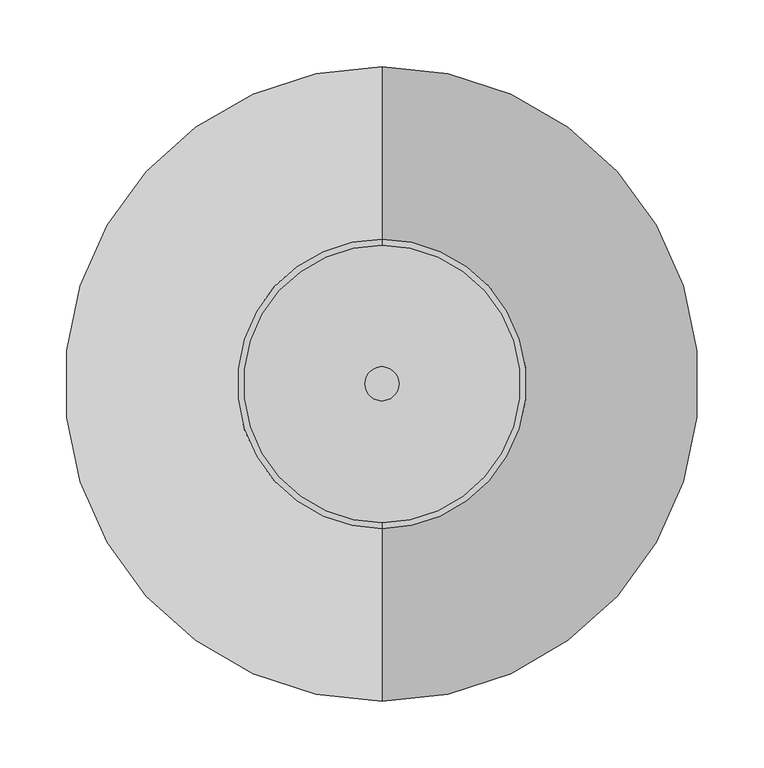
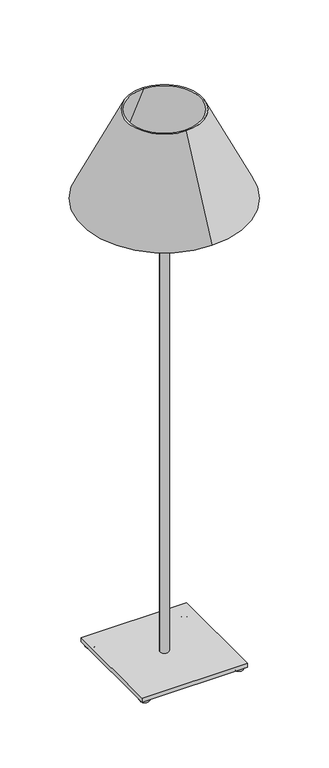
"""IFC4 building model written with IfcOpenShell, lengths in millimetres: light fixture geometry, 立燈 (1)-圓錐型 : 150 瓦白熾燈."""

import ifcopenshell
import ifcopenshell.guid

model = None  # the IFC model being written
_history = None  # IfcOwnerHistory: only IFC2X3 demands one
_inside = {}  # id of a spatial element -> (the spatial element, [elements in it])
_under = {}  # id of a project, library or spatial element -> (it, [spatial elements below it])
_declared = {}  # id of a project -> (the project, [libraries it declares])
_typed = {}  # id of a type object -> (the type object, [elements of that type])
_made_of = {}  # id of a material, layer set ... -> (it, [elements and type objects made of it])


def new_model(schema):
    """Start an empty IFC model of exactly this schema.

    Asked for "IFC4X3", IfcOpenShell would pick the latest addendum, in which some entities
    have other attributes; the version numbers below select the first issue.
    IFC2X3 requires an IfcOwnerHistory on every rooted entity: one is made here for all.
    """
    global model, _history
    if schema == "IFC4X3":
        model = ifcopenshell.file(schema_version=(4, 3, 0, 0))
    else:
        model = ifcopenshell.file(schema=schema)
    _inside.clear()
    _under.clear()
    _declared.clear()
    _typed.clear()
    _made_of.clear()
    _history = None
    if model.schema == "IFC2X3":
        org = make("IfcOrganization", Name="unknown")
        user = make(
            "IfcPersonAndOrganization",
            ThePerson=make("IfcPerson", FamilyName="unknown"),
            TheOrganization=org,
        )
        app = make(
            "IfcApplication",
            ApplicationDeveloper=org,
            Version="unknown",
            ApplicationFullName="unknown",
            ApplicationIdentifier="unknown",
        )
        _history = make(
            "IfcOwnerHistory",
            OwningUser=user,
            OwningApplication=app,
            ChangeAction="ADDED",
            CreationDate=0,
        )
    return model


def make(cls, **values):
    """One entity of the class cls with the attributes given. An attribute that is None is left unset."""
    return model.create_entity(
        cls, **{name: value for name, value in values.items() if value is not None}
    )


def rooted(cls, **values):
    """An entity with a GlobalId (a new one), such as an element, a storey or a relation."""
    return make(cls, GlobalId=ifcopenshell.guid.new(), OwnerHistory=_history, **values)


def si_unit(unit_type, name, prefix=None):
    """IfcSIUnit, for example si_unit("LENGTHUNIT", "METRE", prefix="MILLI")."""
    return make("IfcSIUnit", UnitType=unit_type, Prefix=prefix, Name=name)


def assignment(units):
    """IfcUnitAssignment: the units of a project."""
    return None if units is None else make("IfcUnitAssignment", Units=units)


def point(xyz):
    """IfcCartesianPoint."""
    return None if xyz is None else make("IfcCartesianPoint", Coordinates=xyz)


def direction(xyz):
    """IfcDirection."""
    return None if xyz is None else make("IfcDirection", DirectionRatios=xyz)


def frame(location, z_axis=None, x_axis=None):
    """IfcAxis2Placement3D, a coordinate frame: its origin and axes. An axis left out is left unset."""
    return make(
        "IfcAxis2Placement3D",
        Location=point(location),
        Axis=direction(z_axis),
        RefDirection=direction(x_axis),
    )


def frame_2d(location, x_axis=None):
    """IfcAxis2Placement2D, a coordinate frame in the plane: its origin and x axis."""
    return make(
        "IfcAxis2Placement2D", Location=point(location), RefDirection=direction(x_axis)
    )


def origin():
    """The frame at (0, 0, 0) with its axes left unset."""
    return frame((0.0, 0.0, 0.0))


def origin_2d():
    """The frame at (0, 0) in the plane with its x axis left unset."""
    return frame_2d((0.0, 0.0))


def place(relative_to, where):
    """IfcLocalPlacement: puts the frame where relative to a parent placement (None: the world)."""
    return make(
        "IfcLocalPlacement", PlacementRelTo=relative_to, RelativePlacement=where
    )


def context(
    kind, dimensions, precision=None, world=None, true_north=None, identifier=None
):
    """IfcGeometricRepresentationContext, for example the 3D "Model" context."""
    return make(
        "IfcGeometricRepresentationContext",
        ContextIdentifier=identifier,
        ContextType=kind,
        CoordinateSpaceDimension=dimensions,
        Precision=precision,
        WorldCoordinateSystem=world,
        TrueNorth=true_north,
    )


def project(units=None, contexts=None):
    """IfcProject with its units and contexts."""
    return rooted(
        "IfcProject",
        Name="project",
        RepresentationContexts=contexts,
        UnitsInContext=assignment(units),
    )


def spatial(cls, under=None, at=None, **own):
    """A site, building, storey or space (cls), placed at a placement, below another one or the project."""
    s = rooted(cls, ObjectPlacement=at, **own)
    if under is not None:
        _under.setdefault(under.id(), (under, []))[1].append(s)
    return s


def polyline(points):
    """IfcPolyline through the points."""
    return make("IfcPolyline", Points=[point(p) for p in points])


def circle_curve(where, radius):
    """IfcCircle in the frame where."""
    return make("IfcCircle", Position=where, Radius=radius)


def ellipse_curve(where, semi_axis1, semi_axis2):
    """IfcEllipse in the frame where."""
    return make(
        "IfcEllipse", Position=where, SemiAxis1=semi_axis1, SemiAxis2=semi_axis2
    )


def trimmed(basis, trim1, trim2, sense, master):
    """IfcTrimmedCurve: the piece of a basis curve between two trims."""
    return make(
        "IfcTrimmedCurve",
        BasisCurve=basis,
        Trim1=trim1,
        Trim2=trim2,
        SenseAgreement=sense,
        MasterRepresentation=master,
    )


def segment(curve, same_sense, transition):
    """IfcCompositeCurveSegment."""
    return make(
        "IfcCompositeCurveSegment",
        Transition=transition,
        SameSense=same_sense,
        ParentCurve=curve,
    )


def composite_curve(segments, self_intersect=None):
    """IfcCompositeCurve: segments joined end to end."""
    return make("IfcCompositeCurve", Segments=segments, SelfIntersect=self_intersect)


def outline(outer, holes=None, kind="AREA"):
    """IfcArbitraryClosedProfileDef: a profile drawn as a closed curve; with holes, ...WithVoids."""
    if holes is None:
        return make("IfcArbitraryClosedProfileDef", ProfileType=kind, OuterCurve=outer)
    return make(
        "IfcArbitraryProfileDefWithVoids",
        ProfileType=kind,
        OuterCurve=outer,
        InnerCurves=holes,
    )


def extrude(swept, where, along, depth):
    """IfcExtrudedAreaSolid: the profile swept, set in the frame where, extruded along a direction by depth."""
    return make(
        "IfcExtrudedAreaSolid",
        SweptArea=swept,
        Position=where,
        ExtrudedDirection=direction(along),
        Depth=depth,
    )


def shape(context_of_items, identifier, shape_type, items):
    """IfcShapeRepresentation: the items that make up one representation, for example the "Body"."""
    return make(
        "IfcShapeRepresentation",
        ContextOfItems=context_of_items,
        RepresentationIdentifier=identifier,
        RepresentationType=shape_type,
        Items=items,
    )


def source(mapping_origin, context_of_items, identifier, shape_type, items):
    """IfcRepresentationMap: a shape defined once, which mapped items show again and again."""
    return make(
        "IfcRepresentationMap",
        MappingOrigin=mapping_origin,
        MappedRepresentation=shape(context_of_items, identifier, shape_type, items),
    )


def transform(
    local_origin,
    x_axis=None,
    y_axis=None,
    z_axis=None,
    scale=None,
    scale2=None,
    scale3=None,
    uniform=True,
):
    """IfcCartesianTransformationOperator3D, or its non-uniform kind. x_axis, y_axis, z_axis: its Axis1, 2, 3."""
    if uniform:
        return make(
            "IfcCartesianTransformationOperator3D",
            Axis1=direction(x_axis),
            Axis2=direction(y_axis),
            LocalOrigin=point(local_origin),
            Scale=scale,
            Axis3=direction(z_axis),
        )
    return make(
        "IfcCartesianTransformationOperator3DnonUniform",
        Axis1=direction(x_axis),
        Axis2=direction(y_axis),
        LocalOrigin=point(local_origin),
        Scale=scale,
        Axis3=direction(z_axis),
        Scale2=scale2,
        Scale3=scale3,
    )


def mapped(mapping_source, mapping_target):
    """IfcMappedItem: shows the shape of a source again, moved by a transform."""
    return make(
        "IfcMappedItem", MappingSource=mapping_source, MappingTarget=mapping_target
    )


def made_of(thing, what):
    """Note that an element or type object is made of a material, layer set ...; save() writes the relation."""
    if what is not None:
        _made_of.setdefault(what.id(), (what, []))[1].append(thing)
    return thing


def element(
    cls,
    number,
    at=None,
    inside=None,
    cuts=None,
    type_object=None,
    material=None,
    context=None,
    identifier="Body",
    shape_type=None,
    held_by="IfcProductDefinitionShape",
    body=None,
    shapes=None,
    **own,
):
    """One element of the class cls, such as IfcWall. Its Tag is "e" and its number.

    at: its placement. inside: the storey or other place that contains it. cuts: it is an
    opening in that element (IfcRelVoidsElement). A single representation is given by context,
    identifier, shape_type and body (its items); several are given by shapes. held_by: the class
    of the entity that holds the representations. save() writes the other relations.
    """
    e = rooted(cls, Tag="e%d" % number, ObjectPlacement=at, **own)
    if body is not None:
        shapes = [shape(context, identifier, shape_type, body)]
    if shapes is not None:
        e.Representation = make(held_by, Representations=shapes)
    if inside is not None:
        _inside.setdefault(inside.id(), (inside, []))[1].append(e)
    if cuts is not None:
        rooted(
            "IfcRelVoidsElement", RelatingBuildingElement=cuts, RelatedOpeningElement=e
        )
    if type_object is not None:
        _typed.setdefault(type_object.id(), (type_object, []))[1].append(e)
    return made_of(e, material)


def aggregate(whole, parts):
    """IfcRelAggregates: a whole, such as a stair, and the parts it consists of."""
    return rooted("IfcRelAggregates", RelatingObject=whole, RelatedObjects=parts)


def save(model, path):
    """Write the relations noted so far, then the file.

    IfcRelAggregates (storeys below a building ...), IfcRelContainedInSpatialStructure (elements
    in a storey), IfcRelDefinesByType, IfcRelAssociatesMaterial and IfcRelDeclares: one each for
    every whole, place, type object, material and project.
    """
    for whole, parts in _under.values():
        aggregate(whole, parts)
    for where, things in _inside.values():
        rooted(
            "IfcRelContainedInSpatialStructure",
            RelatedElements=things,
            RelatingStructure=where,
        )
    for kind, things in _typed.values():
        rooted("IfcRelDefinesByType", RelatedObjects=things, RelatingType=kind)
    for what, things in _made_of.values():
        rooted("IfcRelAssociatesMaterial", RelatedObjects=things, RelatingMaterial=what)
    for by, libraries in _declared.values():
        rooted("IfcRelDeclares", RelatingContext=by, RelatedDefinitions=libraries)
    model.write(path)


def plane_surface(at):
    """IfcPlane: the flat surface through the origin of the frame at, square to its z axis."""
    return make("IfcPlane", Position=at)


def revolved_surface(curve, axis_point, axis_direction):
    """IfcSurfaceOfRevolution: the curve turned about the line through axis_point along axis_direction."""
    return make(
        "IfcSurfaceOfRevolution",
        SweptCurve=make("IfcArbitraryOpenProfileDef", ProfileType="CURVE", Curve=curve),
        AxisPosition=make("IfcAxis1Placement", Location=point(axis_point), Axis=direction(axis_direction)),
    )


def advanced_brep(points, edges, surfaces, faces):
    """IfcAdvancedBrep: a solid bounded by faces that lie on surfaces and meet in shared edges.

    An edge is (start, end): straight between two places in points (the first is 0);
    or (start, end, curve); or (start, end, curve, False) where it runs against its curve.
    A face is (place in surfaces, loops), or (place, loops, False) where it looks against
    its surface's normal. A loop lists edges by number (the first is 1), with a minus sign
    where the edge is run from its end to its start. The first loop is the outer one.
    """
    corners = [point(p) for p in points]
    vertices = [make("IfcVertexPoint", VertexGeometry=c) for c in corners]
    made = []
    for start, end, *more in edges:
        made.append(
            make(
                "IfcEdgeCurve",
                EdgeStart=vertices[start],
                EdgeEnd=vertices[end],
                EdgeGeometry=more[0] if more else make("IfcPolyline", Points=[corners[start], corners[end]]),
                SameSense=more[1] if len(more) > 1 else True,
            )
        )
    hull = []
    for where, loops, *sense in faces:
        bounds = []
        for j, loop in enumerate(loops):
            ring = [make("IfcOrientedEdge", EdgeElement=made[abs(k) - 1], Orientation=k > 0) for k in loop]
            bounds.append(
                make(
                    "IfcFaceOuterBound" if j == 0 else "IfcFaceBound",
                    Bound=make("IfcEdgeLoop", EdgeList=ring),
                    Orientation=True,
                )
            )
        hull.append(make("IfcAdvancedFace", Bounds=bounds, FaceSurface=surfaces[where], SameSense=sense[0] if sense else True))
    return make("IfcAdvancedBrep", Outer=make("IfcClosedShell", CfsFaces=hull))


def light_fixture_8564026f(model_context):
    return source(origin(), model_context, "Body", "SolidModel", [
        extrude(outline(composite_curve([segment(trimmed(circle_curve(origin_2d(), 12.7), [point((-12.7, 0.0))], [point((12.7, 0.0))], False, "CARTESIAN"), True, "CONTINUOUS"), segment(trimmed(circle_curve(origin_2d(), 12.7), [point((12.7, 0.0))], [point((-12.7, 0.0))], False, "CARTESIAN"), True, "CONTINUOUS")], self_intersect=False)), frame((0.0, 0.0, 24.9639672), z_axis=(0.0, 0.0, 1.0), x_axis=(1.0, 0.0, 0.0)), (0.0, 0.0, 1.0), 1499.0360328),
        extrude(outline(polyline([(152.4, 152.4), (152.4, -152.4), (-152.4, -152.4), (-152.4, 152.4), (152.4, 152.4)])), frame((0.0, 0.0, 12.6871384), z_axis=(0.0, 0.0, 1.0), x_axis=(1.0, 0.0, 0.0)), (0.0, 0.0, 1.0), 12.2768288),
        advanced_brep(
        [(133.9366871, -135.595774, 0.0), (140.1544999, -135.595774, 0.0), (140.1544999, -135.595774, 12.6871384), (133.9366871, -135.595774, 12.6871384), (121.2495488, -135.595774, 12.6871384), (152.8416383, -135.595774, 12.6871384)],
        [
            (0, 1, circle_curve(frame((137.0455935, -135.595774, 0.0), z_axis=(0.0, 0.0, -1.0), x_axis=(0.0, 1.0, 0.0)), 3.1089064)),
            (1, 2),
            (2, 3, circle_curve(frame((137.0455935, -135.595774, 12.6871384), z_axis=(0.0, 0.0, 1.0), x_axis=(0.0, 1.0, 0.0)), 3.1089064)),
            (3, 0),
            (1, 0, circle_curve(frame((137.0455935, -135.595774, 0.0), z_axis=(0.0, 0.0, -1.0), x_axis=(0.0, 1.0, 0.0)), 3.1089064)),
            (3, 2, circle_curve(frame((137.0455935, -135.595774, 12.6871384), z_axis=(0.0, 0.0, 1.0), x_axis=(0.0, 1.0, 0.0)), 3.1089064)),
            (4, 5, circle_curve(frame((137.0455935, -135.595774, 12.6871384), z_axis=(0.0, 0.0, -1.0), x_axis=(0.0, 1.0, 0.0)), 15.7960447)),
            (5, 1, circle_curve(frame((140.1544999, -135.595774, 12.6871384), z_axis=(0.0, 1.0, 0.0), x_axis=(1.0, 0.0, 0.0)), 12.6871384)),
            (0, 4, circle_curve(frame((133.9366871, -135.595774, 12.6871384), z_axis=(0.0, 1.0, 0.0), x_axis=(-1.0, 0.0, 0.0)), 12.6871384)),
            (5, 4, circle_curve(frame((137.0455935, -135.595774, 12.6871384), z_axis=(0.0, 0.0, -1.0), x_axis=(0.0, 1.0, 0.0)), 15.7960447)),
            (2, 5),
            (4, 3),
        ],
        [
            revolved_surface(polyline([(137.0455935, -132.4868676, 12.6871384), (137.0455935, -132.4868676, 0.0)]), (137.0455935, -135.595774, 0.0), (0.0, 0.0, 1.0)),
            revolved_surface(trimmed(ellipse_curve(frame((137.0455935, -132.4868676, 12.6871384), z_axis=(1.0, 0.0, 0.0), x_axis=(0.0, 1.0, 0.0)), 12.6871384, 12.6871384), [point((137.0455935, -132.4868676, 0.0))], [point((137.0455935, -119.7997292, 12.6871384))], True, "CARTESIAN"), (137.0455935, -135.595774, 0.0), (0.0, 0.0, 1.0)),
            plane_surface(frame((137.0455935, -135.595774, 12.6871384), z_axis=(0.0, 0.0, 1.0), x_axis=(0.0, 1.0, 0.0))),
        ],
        [
            (0, [[1, 2, 3, 4]]),
            (0, [[5, -4, 6, -2]]),
            (1, [[7, 8, -1, 9]]),
            (1, [[10, -9, -5, -8]]),
            (2, [[-3, 11, -7, 12]]),
            (2, [[-6, -12, -10, -11]]),
        ],
    ),
        advanced_brep(
        [(-138.5460372, -136.1907144, 0.0), (-132.3282244, -136.1907144, 0.0), (-132.3282244, -136.1907144, 12.6871384), (-138.5460372, -136.1907144, 12.6871384), (-151.2331755, -136.1907144, 12.6871384), (-119.641086, -136.1907144, 12.6871384)],
        [
            (0, 1, circle_curve(frame((-135.4371308, -136.1907144, 0.0), z_axis=(0.0, 0.0, -1.0), x_axis=(0.0, 1.0, 0.0)), 3.1089064)),
            (1, 2),
            (2, 3, circle_curve(frame((-135.4371308, -136.1907144, 12.6871384), z_axis=(0.0, 0.0, 1.0), x_axis=(0.0, 1.0, 0.0)), 3.1089064)),
            (3, 0),
            (1, 0, circle_curve(frame((-135.4371308, -136.1907144, 0.0), z_axis=(0.0, 0.0, -1.0), x_axis=(0.0, 1.0, 0.0)), 3.1089064)),
            (3, 2, circle_curve(frame((-135.4371308, -136.1907144, 12.6871384), z_axis=(0.0, 0.0, 1.0), x_axis=(0.0, 1.0, 0.0)), 3.1089064)),
            (4, 5, circle_curve(frame((-135.4371308, -136.1907144, 12.6871384), z_axis=(0.0, 0.0, -1.0), x_axis=(0.0, 1.0, 0.0)), 15.7960447)),
            (5, 1, circle_curve(frame((-132.3282244, -136.1907144, 12.6871384), z_axis=(0.0, 1.0, 0.0), x_axis=(1.0, 0.0, 0.0)), 12.6871384)),
            (0, 4, circle_curve(frame((-138.5460372, -136.1907144, 12.6871384), z_axis=(0.0, 1.0, 0.0), x_axis=(-1.0, 0.0, 0.0)), 12.6871384)),
            (5, 4, circle_curve(frame((-135.4371308, -136.1907144, 12.6871384), z_axis=(0.0, 0.0, -1.0), x_axis=(0.0, 1.0, 0.0)), 15.7960447)),
            (2, 5),
            (4, 3),
        ],
        [
            revolved_surface(polyline([(-135.4371308, -133.081808, 12.6871384), (-135.4371308, -133.081808, 0.0)]), (-135.4371308, -136.1907144, 0.0), (0.0, 0.0, 1.0)),
            revolved_surface(trimmed(ellipse_curve(frame((-135.4371308, -133.081808, 12.6871384), z_axis=(1.0, 0.0, 0.0), x_axis=(0.0, 1.0, 0.0)), 12.6871384, 12.6871384), [point((-135.4371308, -133.081808, 0.0))], [point((-135.4371308, -120.3946697, 12.6871384))], True, "CARTESIAN"), (-135.4371308, -136.1907144, 0.0), (0.0, 0.0, 1.0)),
            plane_surface(frame((-135.4371308, -136.1907144, 12.6871384), z_axis=(0.0, 0.0, 1.0), x_axis=(0.0, 1.0, 0.0))),
        ],
        [
            (0, [[1, 2, 3, 4]]),
            (0, [[5, -4, 6, -2]]),
            (1, [[7, 8, -1, 9]]),
            (1, [[10, -9, -5, -8]]),
            (2, [[-3, 11, -7, 12]]),
            (2, [[-6, -12, -10, -11]]),
        ],
    ),
        advanced_brep(
        [(-139.1409776, 135.6970694, 0.0), (-132.9231648, 135.6970694, 0.0), (-132.9231648, 135.6970694, 12.6871384), (-139.1409776, 135.6970694, 12.6871384), (-151.828116, 135.6970694, 12.6871384), (-120.2360265, 135.6970694, 12.6871384)],
        [
            (0, 1, circle_curve(frame((-136.0320712, 135.6970694, 0.0), z_axis=(0.0, 0.0, -1.0), x_axis=(0.0, 1.0, 0.0)), 3.1089064)),
            (1, 2),
            (2, 3, circle_curve(frame((-136.0320712, 135.6970694, 12.6871384), z_axis=(0.0, 0.0, 1.0), x_axis=(0.0, 1.0, 0.0)), 3.1089064)),
            (3, 0),
            (1, 0, circle_curve(frame((-136.0320712, 135.6970694, 0.0), z_axis=(0.0, 0.0, -1.0), x_axis=(0.0, 1.0, 0.0)), 3.1089064)),
            (3, 2, circle_curve(frame((-136.0320712, 135.6970694, 12.6871384), z_axis=(0.0, 0.0, 1.0), x_axis=(0.0, 1.0, 0.0)), 3.1089064)),
            (4, 5, circle_curve(frame((-136.0320712, 135.6970694, 12.6871384), z_axis=(0.0, 0.0, -1.0), x_axis=(0.0, 1.0, 0.0)), 15.7960447)),
            (5, 1, circle_curve(frame((-132.9231648, 135.6970694, 12.6871384), z_axis=(0.0, 1.0, 0.0), x_axis=(1.0, 0.0, 0.0)), 12.6871384)),
            (0, 4, circle_curve(frame((-139.1409776, 135.6970694, 12.6871384), z_axis=(0.0, 1.0, 0.0), x_axis=(-1.0, 0.0, 0.0)), 12.6871384)),
            (5, 4, circle_curve(frame((-136.0320712, 135.6970694, 12.6871384), z_axis=(0.0, 0.0, -1.0), x_axis=(0.0, 1.0, 0.0)), 15.7960447)),
            (2, 5),
            (4, 3),
        ],
        [
            revolved_surface(polyline([(-136.0320712, 138.8059758, 12.6871384), (-136.0320712, 138.8059758, 0.0)]), (-136.0320712, 135.6970694, 0.0), (0.0, 0.0, 1.0)),
            revolved_surface(trimmed(ellipse_curve(frame((-136.0320712, 138.8059758, 12.6871384), z_axis=(1.0, 0.0, 0.0), x_axis=(0.0, 1.0, 0.0)), 12.6871384, 12.6871384), [point((-136.0320712, 138.8059758, 0.0))], [point((-136.0320712, 151.4931142, 12.6871384))], True, "CARTESIAN"), (-136.0320712, 135.6970694, 0.0), (0.0, 0.0, 1.0)),
            plane_surface(frame((-136.0320712, 135.6970694, 12.6871384), z_axis=(0.0, 0.0, 1.0), x_axis=(0.0, 1.0, 0.0))),
        ],
        [
            (0, [[1, 2, 3, 4]]),
            (0, [[5, -4, 6, -2]]),
            (1, [[7, 8, -1, 9]]),
            (1, [[10, -9, -5, -8]]),
            (2, [[-3, 11, -7, 12]]),
            (2, [[-6, -12, -10, -11]]),
        ],
    ),
        advanced_brep(
        [(133.2106985, 136.0573029, 0.0), (139.4285113, 136.0573029, 0.0), (139.4285113, 136.0573029, 12.6871384), (133.2106985, 136.0573029, 12.6871384), (120.5235602, 136.0573029, 12.6871384), (152.1156497, 136.0573029, 12.6871384)],
        [
            (0, 1, circle_curve(frame((136.3196049, 136.0573029, 0.0), z_axis=(0.0, 0.0, -1.0), x_axis=(0.0, 1.0, 0.0)), 3.1089064)),
            (1, 2),
            (2, 3, circle_curve(frame((136.3196049, 136.0573029, 12.6871384), z_axis=(0.0, 0.0, 1.0), x_axis=(0.0, 1.0, 0.0)), 3.1089064)),
            (3, 0),
            (1, 0, circle_curve(frame((136.3196049, 136.0573029, 0.0), z_axis=(0.0, 0.0, -1.0), x_axis=(0.0, 1.0, 0.0)), 3.1089064)),
            (3, 2, circle_curve(frame((136.3196049, 136.0573029, 12.6871384), z_axis=(0.0, 0.0, 1.0), x_axis=(0.0, 1.0, 0.0)), 3.1089064)),
            (4, 5, circle_curve(frame((136.3196049, 136.0573029, 12.6871384), z_axis=(0.0, 0.0, -1.0), x_axis=(0.0, 1.0, 0.0)), 15.7960447)),
            (5, 1, circle_curve(frame((139.4285113, 136.0573029, 12.6871384), z_axis=(0.0, 1.0, 0.0), x_axis=(1.0, 0.0, 0.0)), 12.6871384)),
            (0, 4, circle_curve(frame((133.2106985, 136.0573029, 12.6871384), z_axis=(0.0, 1.0, 0.0), x_axis=(-1.0, 0.0, 0.0)), 12.6871384)),
            (5, 4, circle_curve(frame((136.3196049, 136.0573029, 12.6871384), z_axis=(0.0, 0.0, -1.0), x_axis=(0.0, 1.0, 0.0)), 15.7960447)),
            (2, 5),
            (4, 3),
        ],
        [
            revolved_surface(polyline([(136.3196049, 139.1662093, 12.6871384), (136.3196049, 139.1662093, 0.0)]), (136.3196049, 136.0573029, 0.0), (0.0, 0.0, 1.0)),
            revolved_surface(trimmed(ellipse_curve(frame((136.3196049, 139.1662093, 12.6871384), z_axis=(1.0, 0.0, 0.0), x_axis=(0.0, 1.0, 0.0)), 12.6871384, 12.6871384), [point((136.3196049, 139.1662093, 0.0))], [point((136.3196049, 151.8533477, 12.6871384))], True, "CARTESIAN"), (136.3196049, 136.0573029, 0.0), (0.0, 0.0, 1.0)),
            plane_surface(frame((136.3196049, 136.0573029, 12.6871384), z_axis=(0.0, 0.0, 1.0), x_axis=(0.0, 1.0, 0.0))),
        ],
        [
            (0, [[1, 2, 3, 4]]),
            (0, [[5, -4, 6, -2]]),
            (1, [[7, 8, -1, 9]]),
            (1, [[10, -9, -5, -8]]),
            (2, [[-3, 11, -7, 12]]),
            (2, [[-6, -12, -10, -11]]),
        ],
    ),
        advanced_brep(
        [(0.0, -233.3382251, 1403.5752564), (0.0, 233.3382251, 1403.5752564), (0.0, 104.0586089, 1674.1859784), (0.0, -104.0586089, 1674.1859784), (0.0, -237.8523754, 1403.5752564), (0.0, 237.8523754, 1403.5752564), (0.0, -108.5727592, 1674.1859784), (0.0, 108.5727592, 1674.1859784)],
        [
            (0, 1, circle_curve(frame((0.0, 0.0, 1403.5752564), z_axis=(0.0, 0.0, -1.0), x_axis=(0.0, 1.0, 0.0)), 233.3382251)),
            (1, 2),
            (2, 3, circle_curve(frame((0.0, 0.0, 1674.1859784), z_axis=(0.0, 0.0, 1.0), x_axis=(0.0, 1.0, 0.0)), 104.0586089)),
            (3, 0),
            (1, 0, circle_curve(frame((0.0, 0.0, 1403.5752564), z_axis=(0.0, 0.0, -1.0), x_axis=(0.0, 1.0, 0.0)), 233.3382251)),
            (3, 2, circle_curve(frame((0.0, 0.0, 1674.1859784), z_axis=(0.0, 0.0, 1.0), x_axis=(0.0, 1.0, 0.0)), 104.0586089)),
            (4, 5, circle_curve(frame((0.0, 0.0, 1403.5752564), z_axis=(0.0, 0.0, -1.0), x_axis=(0.0, 1.0, 0.0)), 237.8523754)),
            (5, 1),
            (0, 4),
            (5, 4, circle_curve(frame((0.0, 0.0, 1403.5752564), z_axis=(0.0, 0.0, -1.0), x_axis=(0.0, 1.0, 0.0)), 237.8523754)),
            (6, 7, circle_curve(frame((0.0, 0.0, 1674.1859784), z_axis=(0.0, 0.0, -1.0), x_axis=(0.0, 1.0, 0.0)), 108.5727592)),
            (7, 5),
            (4, 6),
            (7, 6, circle_curve(frame((0.0, 0.0, 1674.1859784), z_axis=(0.0, 0.0, -1.0), x_axis=(0.0, 1.0, 0.0)), 108.5727592)),
            (2, 7),
            (6, 3),
        ],
        [
            revolved_surface(polyline([(0.0, 104.0586089, 1674.1859784), (0.0, 233.3382251, 1403.5752564)]), (0.0, 0.0, 1713.8233367), (0.0, 0.0, 1.0)),
            plane_surface(frame((0.0, 0.0, 1403.5752564), z_axis=(0.0, 0.0, -1.0), x_axis=(0.0, 1.0, 0.0))),
            revolved_surface(polyline([(0.0, 237.8523754, 1403.5752564), (0.0, 108.5727592, 1674.1859784)]), (0.0, 0.0, 1713.8233367), (0.0, 0.0, 1.0)),
            plane_surface(frame((0.0, 0.0, 1674.1859784), z_axis=(0.0, 0.0, 1.0), x_axis=(0.0, 1.0, 0.0))),
        ],
        [
            (0, [[1, 2, 3, 4]]),
            (0, [[5, -4, 6, -2]]),
            (1, [[7, 8, -1, 9]]),
            (1, [[10, -9, -5, -8]]),
            (2, [[11, 12, -7, 13]]),
            (2, [[14, -13, -10, -12]]),
            (3, [[-3, 15, -11, 16]]),
            (3, [[-6, -16, -14, -15]]),
        ],
    ),
    ])


if __name__ == "__main__":
    model = new_model("IFC4")
    model_context = context("Model", 3, world=origin())
    ifc_project = project(units=[si_unit("LENGTHUNIT", "METRE", prefix="MILLI")], contexts=[model_context])
    site = spatial("IfcSite", under=ifc_project)
    building = spatial("IfcBuilding", under=site)
    placement = place(None, origin())
    light_fixture_shape = light_fixture_8564026f(model_context)
    element("IfcLightFixture", 1, ObjectType="立燈 (1)-圓錐型 : 150 瓦白熾燈", at=placement, inside=building, context=model_context, shape_type="MappedRepresentation", body=[
        mapped(light_fixture_shape, transform((0.0, 0.0, 0.0), x_axis=(1.0, 0.0, 0.0), y_axis=(0.0, 1.0, 0.0), z_axis=(0.0, 0.0, 1.0))),
    ])
    save(model, "model.ifc")
